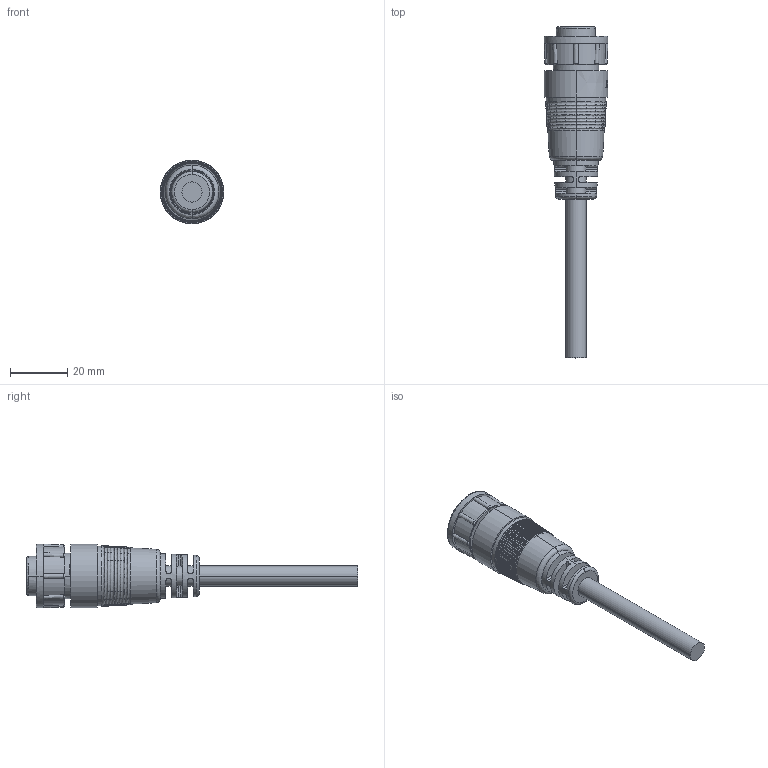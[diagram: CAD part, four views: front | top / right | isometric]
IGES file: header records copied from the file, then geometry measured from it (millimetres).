
Start section:  PTC IGES file: ACD-14AFFM-LL7AXX.igs
Global section: file name: ACD-14AFFM-LL7AXX.igs; native system: Creo Parametric by Parametric Technology Corporation; preprocessor: 2013050; author: KS7307; organization: Unknown; date: 20160623.090400; units: millimetre
Bounding box: 22.2 x 115.55 x 22.2 mm (x, y, z)
Volume: 17754.4 mm3; surface area: 8196.6 mm2
Topology: 2 solids, 4 shells, 481 faces, 1250 edges, 808 vertices
Faces by surface type: revolution 221, bspline 204, extrusion 56
